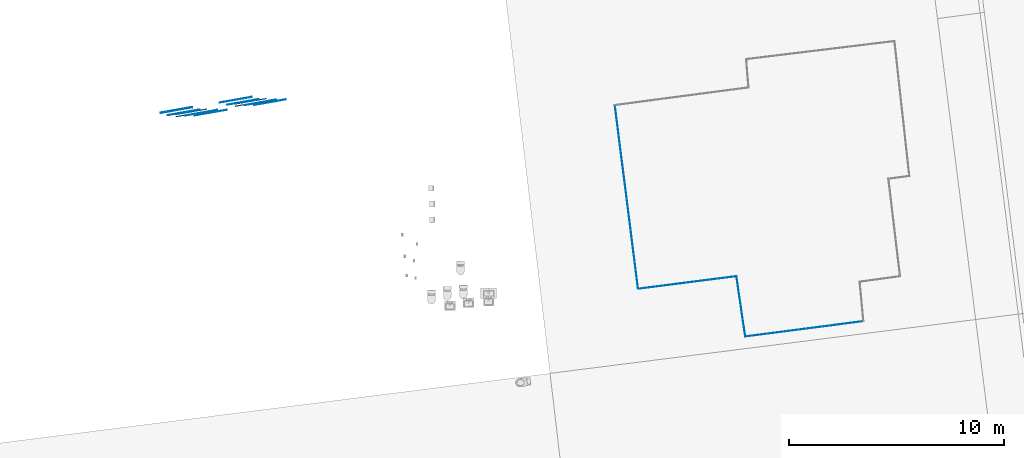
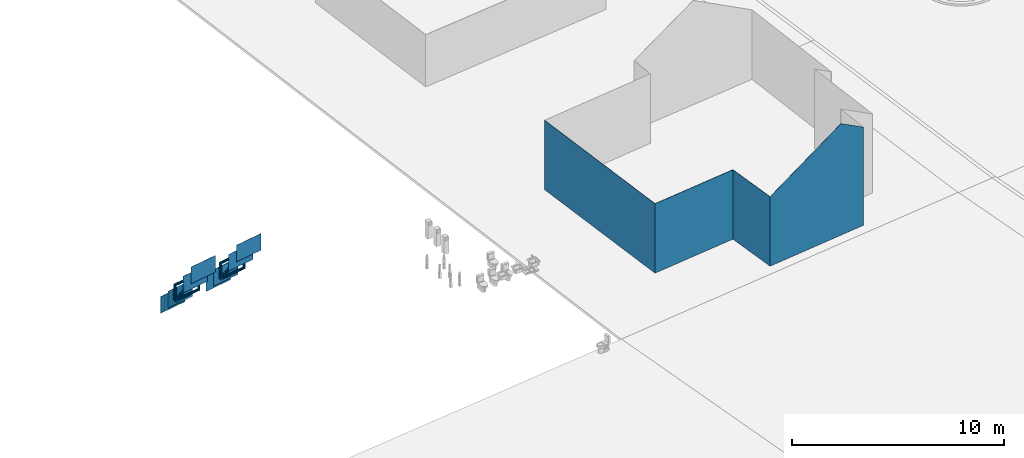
# One storey, part 21 of 75: 17 walls, 8 openings.
"""IFC2X3 building model written with IfcOpenShell, lengths in metres."""

from ifc_helpers import new_model, entity, si_unit, converted_unit, derived_unit, direction, frame, frame_2d, origin, origin_2d_with_axis, place, context, subcontext, project, spatial, polyline, rectangle, outline, extrude, clip, bounded_halfspace, material, layer, layer_set, layer_usage, type_object, element, save


model = new_model("IFC2X3")

# Units and contexts
model_context = context("Model", 3, precision=1e-05, world=origin(), true_north=direction((6.123031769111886e-17, 1.0)))
body_context = subcontext(model_context, "Body", "Model", "MODEL_VIEW")
ifc_project = project(units=[si_unit("LENGTHUNIT", "METRE"), si_unit("AREAUNIT", "SQUARE_METRE"), si_unit("VOLUMEUNIT", "CUBIC_METRE"), converted_unit("PLANEANGLEUNIT", "DEGREE", entity("IfcRatioMeasure", 0.017453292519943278), si_unit("PLANEANGLEUNIT", "RADIAN"), dimensions=[0, 0, 0, 0, 0, 0, 0]), si_unit("MASSUNIT", "GRAM", prefix="KILO"), derived_unit("MASSDENSITYUNIT", [(si_unit("MASSUNIT", "GRAM", prefix="KILO"), 1), (si_unit("LENGTHUNIT", "METRE"), -3)]), derived_unit("IONCONCENTRATIONUNIT", [(si_unit("MASSUNIT", "GRAM", prefix="KILO"), 1), (si_unit("LENGTHUNIT", "METRE"), -3)]), derived_unit("MOMENTOFINERTIAUNIT", [(si_unit("LENGTHUNIT", "METRE"), 4)]), si_unit("TIMEUNIT", "SECOND"), si_unit("FREQUENCYUNIT", "HERTZ"), si_unit("THERMODYNAMICTEMPERATUREUNIT", "DEGREE_CELSIUS"), derived_unit("THERMALTRANSMITTANCEUNIT", [(si_unit("MASSUNIT", "GRAM", prefix="KILO"), 1), (si_unit("THERMODYNAMICTEMPERATUREUNIT", "KELVIN"), -1), (si_unit("TIMEUNIT", "SECOND"), -3)]), derived_unit("THERMALCONDUCTANCEUNIT", [(si_unit("MASSUNIT", "GRAM", prefix="KILO"), 1), (si_unit("THERMODYNAMICTEMPERATUREUNIT", "KELVIN"), -1), (si_unit("TIMEUNIT", "SECOND"), -3), (si_unit("LENGTHUNIT", "METRE"), 1)]), derived_unit("VOLUMETRICFLOWRATEUNIT", [(si_unit("LENGTHUNIT", "METRE"), 3), (si_unit("TIMEUNIT", "SECOND"), -1)]), derived_unit("MASSFLOWRATEUNIT", [(si_unit("MASSUNIT", "GRAM", prefix="KILO"), 1), (si_unit("TIMEUNIT", "SECOND"), -1)]), derived_unit("ROTATIONALFREQUENCYUNIT", [(si_unit("TIMEUNIT", "SECOND"), -1)]), si_unit("ELECTRICCURRENTUNIT", "AMPERE"), si_unit("ELECTRICVOLTAGEUNIT", "VOLT"), si_unit("POWERUNIT", "WATT"), si_unit("FORCEUNIT", "NEWTON", prefix="KILO"), si_unit("ILLUMINANCEUNIT", "LUX"), si_unit("LUMINOUSFLUXUNIT", "LUMEN"), si_unit("LUMINOUSINTENSITYUNIT", "CANDELA"), derived_unit("USERDEFINED", [(si_unit("MASSUNIT", "GRAM", prefix="KILO"), -1), (si_unit("LENGTHUNIT", "METRE"), -2), (si_unit("TIMEUNIT", "SECOND"), 3), (si_unit("LUMINOUSFLUXUNIT", "LUMEN"), 1)]), derived_unit("USERDEFINED", [(si_unit("MASSUNIT", "GRAM", prefix="KILO"), 1), (si_unit("TIMEUNIT", "SECOND"), -3), (si_unit("LENGTHUNIT", "METRE"), 3), (si_unit("ELECTRICCURRENTUNIT", "AMPERE"), -2)]), derived_unit("SOUNDPOWERUNIT", [(si_unit("MASSUNIT", "GRAM", prefix="KILO"), 1), (si_unit("TIMEUNIT", "SECOND"), -3), (si_unit("LENGTHUNIT", "METRE"), 2)]), derived_unit("SOUNDPRESSUREUNIT", [(si_unit("MASSUNIT", "GRAM", prefix="KILO"), 1), (si_unit("LENGTHUNIT", "METRE"), -1), (si_unit("TIMEUNIT", "SECOND"), -2)]), derived_unit("LINEARVELOCITYUNIT", [(si_unit("LENGTHUNIT", "METRE"), 1), (si_unit("TIMEUNIT", "SECOND"), -1)]), si_unit("PRESSUREUNIT", "PASCAL"), derived_unit("USERDEFINED", [(si_unit("MASSUNIT", "GRAM", prefix="KILO"), 1), (si_unit("LENGTHUNIT", "METRE"), -2), (si_unit("TIMEUNIT", "SECOND"), -2)]), derived_unit("LINEARFORCEUNIT", [(si_unit("MASSUNIT", "GRAM", prefix="KILO"), 1), (si_unit("TIMEUNIT", "SECOND"), -2)]), derived_unit("PLANARFORCEUNIT", [(si_unit("MASSUNIT", "GRAM", prefix="KILO"), 1), (si_unit("LENGTHUNIT", "METRE"), -1), (si_unit("TIMEUNIT", "SECOND"), -2)]), derived_unit("SPECIFICHEATCAPACITYUNIT", [(si_unit("THERMODYNAMICTEMPERATUREUNIT", "KELVIN"), -1), (si_unit("LENGTHUNIT", "METRE"), 2), (si_unit("TIMEUNIT", "SECOND"), -2)]), derived_unit("HEATINGVALUEUNIT", [(si_unit("LENGTHUNIT", "METRE"), 2), (si_unit("TIMEUNIT", "SECOND"), -2)]), derived_unit("VAPORPERMEABILITYUNIT", [(si_unit("LENGTHUNIT", "METRE"), -1), (si_unit("TIMEUNIT", "SECOND"), 1)]), derived_unit("DYNAMICVISCOSITYUNIT", [(si_unit("MASSUNIT", "GRAM", prefix="KILO"), 1), (si_unit("TIMEUNIT", "SECOND"), -1), (si_unit("LENGTHUNIT", "METRE"), -1)]), derived_unit("THERMALEXPANSIONCOEFFICIENTUNIT", [(si_unit("THERMODYNAMICTEMPERATUREUNIT", "KELVIN"), -1)]), derived_unit("MODULUSOFELASTICITYUNIT", [(si_unit("MASSUNIT", "GRAM", prefix="KILO"), 1), (si_unit("LENGTHUNIT", "METRE"), -1), (si_unit("TIMEUNIT", "SECOND"), -2)]), derived_unit("ISOTHERMALMOISTURECAPACITYUNIT", [(si_unit("LENGTHUNIT", "METRE"), 3), (si_unit("MASSUNIT", "GRAM", prefix="KILO"), -1)]), derived_unit("MOISTUREDIFFUSIVITYUNIT", [(si_unit("TIMEUNIT", "SECOND"), -1), (si_unit("LENGTHUNIT", "METRE"), 2)])], contexts=[model_context])

# Site, building, storey
site_placement = place(None, origin())
site = spatial("IfcSite", under=ifc_project, at=site_placement, Name="Default", CompositionType="ELEMENT")
building_placement = place(site_placement, origin())
building = spatial("IfcBuilding", under=site, at=building_placement, Name="Projeto", CompositionType="ELEMENT")
storey_placement = place(building_placement, origin())
storey = spatial("IfcBuildingStorey", under=building, at=storey_placement, Name="Nível 1", CompositionType="ELEMENT", Elevation=0.0)

# Walls
ifc_material_1 = material(Name="Metal")
ifc_layer_1 = layer(ifc_material_1, 0.01)
ifc_layer_set_1 = layer_set([ifc_layer_1], Name="Parede básica:JA_Aluminio")
ifc_layer_usage_1 = layer_usage(ifc_layer_set_1, "AXIS2", "NEGATIVE", 0.005)
wall_type_1 = type_object("IfcWallType", Name="Parede básica:JA_Aluminio", PredefinedType="STANDARD", material=ifc_layer_set_1)
wall_1_placement = place(storey_placement, frame((-43.29096074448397, 28.0601395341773, -2.6), z_axis=(0.0, 0.0, 1.0), x_axis=(-0.9917403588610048, -0.1282616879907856, 0.0)))
element("IfcWallStandardCase", 1, at=wall_1_placement, inside=storey, type_object=wall_type_1, material=ifc_layer_usage_1, Name="Parede básica:JA_Aluminio", ObjectType="Parede básica:JA_Aluminio", context=body_context, shape_type="Clipping", body=[
    clip(clip(extrude(outline(polyline([(5.543344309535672, -0.005000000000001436), (5.543174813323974, 0.004999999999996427), (0.0003471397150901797, 0.004999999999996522), (0.0, -0.0050000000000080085), (5.533342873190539, -0.005000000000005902), (5.543344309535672, -0.005000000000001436)])), origin(), (0.0, 0.0, 1.0), 6.429467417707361), bounded_halfspace(frame((1.3347788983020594, -0.005000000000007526, 6.42946741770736), z_axis=(0.49992819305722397, 0.008473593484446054, 0.8660254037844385), x_axis=(-0.01694718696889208, 0.9998563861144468, 0.0)), False, frame((1.3347788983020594, -0.005000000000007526, 6.42946741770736)), polyline([(0.0, 0.0), (4.198563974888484, 0.0), (4.208565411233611, 0.0), (4.208395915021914, 0.009999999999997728), (1.069765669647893e-05, 0.01000000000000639), (0.0, 0.0)]))), bounded_halfspace(frame((0.0, -0.005000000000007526, 5.6589728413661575), z_axis=(-0.49990891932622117, 0.009543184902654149, 0.8660254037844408), x_axis=(-0.01908636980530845, -0.9998178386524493, 0.0)), False, frame((0.0, -0.005000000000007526, 5.6589728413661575)), polyline([(0.0, 0.0), (1.3347788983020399, 0.0), (1.3347895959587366, 0.01000000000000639), (0.00034713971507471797, 0.01000000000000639), (0.0, 0.0)]))),
])
wall_2_placement = place(storey_placement, frame((-48.78418862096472, 27.35465708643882, -2.6), z_axis=(0.0, 0.0, 1.0), x_axis=(-0.1450504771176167, 0.9894242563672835, 0.0)))
element("IfcWallStandardCase", 2, at=wall_2_placement, inside=storey, type_object=wall_type_1, material=ifc_layer_usage_1, Name="Parede básica:JA_Aluminio", ObjectType="Parede básica:JA_Aluminio", context=body_context, shape_type="Clipping", body=[
    clip(clip(extrude(outline(polyline([(2.8326081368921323, -0.005000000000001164), (2.832797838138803, 0.004999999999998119), (2.8227960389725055, 0.00500000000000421), (0.00016949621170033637, 0.005000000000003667), (0.0, -0.004999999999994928), (2.8326081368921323, -0.005000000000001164)])), origin(), (0.0, 0.0, 1.0), 4.005773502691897), bounded_halfspace(frame((2.8326081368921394, -0.004999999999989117, 4.005773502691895), z_axis=(-0.49991005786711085, 0.00948335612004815, 0.86602540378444), x_axis=(-0.018966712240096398, -0.9998201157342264, 0.0)), False, frame((2.8326081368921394, -0.004999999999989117, 4.005773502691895)), polyline([(0.0, 0.0), (0.00018970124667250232, 0.009999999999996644), (-0.00981209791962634, 0.00999999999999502), (0.0, 0.0)]))), bounded_halfspace(frame((0.0, -0.004999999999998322, 4.005773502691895), z_axis=(0.0, 0.5000000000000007, 0.8660254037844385), x_axis=(-1.0, 0.0, 0.0)), False, frame((0.0, -0.004999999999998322, 4.005773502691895)), polyline([(0.0, 0.0), (2.8326081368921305, 0.0), (2.822796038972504, 0.010000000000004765), (0.00016949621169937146, 0.009999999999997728), (0.0, 0.0)]))),
])
wall_3_placement = place(storey_placement, frame((-49.19921494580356, 30.15183469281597, -2.6), z_axis=(0.0, 0.0, 1.0), x_axis=(-0.9919974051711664, -0.12625825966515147, 0.0)))
element("IfcWallStandardCase", 3, at=wall_3_placement, inside=storey, type_object=wall_type_1, material=ifc_layer_usage_1, Name="Parede básica:JA_Aluminio", ObjectType="Parede básica:JA_Aluminio", context=body_context, shape_type="Clipping", body=[
    clip(clip(extrude(outline(polyline([(4.615245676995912, -0.004999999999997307), (4.615256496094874, 0.005000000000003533), (0.0, 0.005000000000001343), (0.00018970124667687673, -0.004999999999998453), (4.605245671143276, -0.004999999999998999), (4.615245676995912, -0.004999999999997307)])), origin(), (0.0, 0.0, 1.0), 4.005773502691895), bounded_halfspace(frame((4.6052456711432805, -0.005000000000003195, 4.005773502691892), z_axis=(0.49999970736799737, -0.0005409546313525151, 0.866025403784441), x_axis=(0.0010819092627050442, 0.9999994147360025, 0.0)), False, frame((4.6052456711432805, -0.005000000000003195, 4.005773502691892)), polyline([(0.0, 0.0), (0.010000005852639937, 0.0), (0.010010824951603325, 0.010000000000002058), (0.0, 0.0)]))), bounded_halfspace(frame((0.00018970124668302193, -0.004999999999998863, 4.005773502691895), z_axis=(0.0, 0.4999999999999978, 0.86602540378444), x_axis=(-1.0, 0.0, 0.0)), False, frame((0.00018970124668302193, -0.004999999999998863, 4.005773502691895)), polyline([(0.0, 0.0), (4.605055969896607, 0.0), (4.61506679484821, 0.010000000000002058), (-0.00018970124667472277, 0.009999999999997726), (0.0, 0.0)]))),
])
wall_4_placement = place(storey_placement, frame((-53.77319730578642, 29.574707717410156, -2.6), z_axis=(0.0, 0.0, 1.0), x_axis=(-0.12518493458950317, 0.9921334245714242, 0.0)))
element("IfcWallStandardCase", 4, at=wall_4_placement, inside=storey, type_object=wall_type_1, material=ifc_layer_usage_1, Name="Parede básica:JA_Aluminio", ObjectType="Parede básica:JA_Aluminio", context=body_context, shape_type="Clipping", body=[
    clip(clip(extrude(outline(polyline([(8.6123508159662, -0.005000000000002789), (8.612294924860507, 0.004999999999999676), (0.0, 0.004999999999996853), (1.081909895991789e-05, -0.004999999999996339), (8.602350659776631, -0.0050000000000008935), (8.6123508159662, -0.005000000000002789)])), origin(), (0.0, 0.0, 1.0), 4.005773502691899), bounded_halfspace(frame((1.0819098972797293e-05, -0.005000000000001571, 4.005773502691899), z_axis=(0.0, 0.49999999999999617, 0.866025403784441), x_axis=(-1.0, 0.0, 0.0)), False, frame((1.0819098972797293e-05, -0.005000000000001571, 4.005773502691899)), polyline([(0.0, 0.0), (8.602339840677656, 0.0), (8.612284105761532, 0.009999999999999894), (-1.0819098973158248e-05, 0.010000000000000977), (0.0, 0.0)]))), bounded_halfspace(frame((8.602350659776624, -0.004999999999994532, 4.005773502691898), z_axis=(0.49999219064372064, 0.002794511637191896, 0.8660254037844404), x_axis=(-0.005589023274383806, 0.9999843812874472, 0.0)), False, frame((8.602350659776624, -0.004999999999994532, 4.005773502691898)), polyline([(0.0, 0.0), (0.01000015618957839, 0.0), (0.00994426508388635, 0.009999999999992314), (0.0, 0.0)]))),
])
ifc_material_2 = material(Name=".ARQ.PIS - CONTRAPISO.ARMADO")
ifc_layer_2 = layer(ifc_material_2, 0.01)
ifc_layer_set_2 = layer_set([ifc_layer_2], Name="Parede básica:15cm 2")
ifc_layer_usage_2 = layer_usage(ifc_layer_set_2, "AXIS2", "NEGATIVE", 0.005000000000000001)
wall_type_2 = type_object("IfcWallType", Name="Parede básica:15cm 2", PredefinedType="STANDARD", material=ifc_layer_set_2)
wall_5_placement = place(storey_placement, frame((-71.4154008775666, 38.3934594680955, -1.8532580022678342), z_axis=(0.0, 0.0, 1.0), x_axis=(-0.9848077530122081, -0.1736481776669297, 0.0)))
element("IfcWallStandardCase", 5, at=wall_5_placement, inside=storey, type_object=wall_type_2, material=ifc_layer_usage_2, Name="Parede básica:15cm 2", ObjectType="Parede básica:15cm 2", context=body_context, shape_type="SweptSolid", body=[
    extrude(rectangle(XDim=0.00999999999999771, YDim=1.5000000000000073, at=frame_2d((-2.131975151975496e-15, 3.885780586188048e-16), x_axis=(1.0, 0.0))), frame((0.7499999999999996, 0.0, 0.0), z_axis=(0.0, 0.0, 1.0), x_axis=(0.0, 1.0, 0.0)), (0.0, 0.0, 1.0), 0.9640099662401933),
])
wall_6_placement = place(storey_placement, frame((-70.60191288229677, 38.3744310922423, -1.2605113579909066), z_axis=(0.0, 0.0, 1.0), x_axis=(-0.9848077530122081, -0.1736481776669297, 0.0)))
element("IfcWallStandardCase", 6, at=wall_6_placement, inside=storey, type_object=wall_type_2, material=ifc_layer_usage_2, Name="Parede básica:15cm 2", ObjectType="Parede básica:15cm 2", context=body_context, shape_type="SweptSolid", body=[
    extrude(rectangle(XDim=0.00999999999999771, YDim=1.5000000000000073, at=frame_2d((3.6290415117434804e-15, 8.215650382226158e-15), x_axis=(1.0, 0.0))), frame((0.7500000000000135, 0.0, 0.0), z_axis=(0.0, 0.0, 1.0), x_axis=(0.0, 1.0, 0.0)), (0.0, 0.0, 1.0), 0.9640099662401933),
])
wall_7_placement = place(storey_placement, frame((-70.16026393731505, 38.381225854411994, -0.882373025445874), z_axis=(0.0, 0.0, 1.0), x_axis=(-0.9848077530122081, -0.1736481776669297, 0.0)))
element("IfcWallStandardCase", 7, at=wall_7_placement, inside=storey, type_object=wall_type_2, material=ifc_layer_usage_2, Name="Parede básica:15cm 2", ObjectType="Parede básica:15cm 2", context=body_context, shape_type="SweptSolid", body=[
    extrude(rectangle(XDim=0.00999999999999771, YDim=1.5000000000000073, at=frame_2d((-2.131975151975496e-15, 3.885780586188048e-16), x_axis=(1.0, 0.0))), frame((0.750000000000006, 0.0, 0.0), z_axis=(0.0, 0.0, 1.0), x_axis=(0.0, 1.0, 0.0)), (0.0, 0.0, 1.0), 0.9640099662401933),
])
wall_8_placement = place(storey_placement, frame((-71.7583230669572, 38.495461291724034, -2.1), z_axis=(0.0, 0.0, 1.0), x_axis=(-0.9848077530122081, -0.1736481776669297, 0.0)))
element("IfcWallStandardCase", 8, at=wall_8_placement, inside=storey, type_object=wall_type_2, material=ifc_layer_usage_2, Name="Parede básica:15cm 2", ObjectType="Parede básica:15cm 2", context=body_context, shape_type="SweptSolid", body=[
    extrude(rectangle(XDim=0.009999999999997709, YDim=1.5000000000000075, at=frame_2d((2.131975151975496e-15, -3.885780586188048e-16), x_axis=(1.0, 0.0))), frame((0.7500000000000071, 0.0, 0.0), z_axis=(0.0, 0.0, 1.0), x_axis=(0.0, 1.0, 0.0)), (0.0, 0.0, 1.0), 0.9640099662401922),
])
wall_9_placement = place(storey_placement, frame((-74.54214145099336, 38.01475326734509, -2.1), z_axis=(0.0, 0.0, 1.0), x_axis=(-0.9848077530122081, -0.1736481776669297, 0.0)))
element("IfcWall", 9, at=wall_9_placement, inside=storey, type_object=wall_type_2, Name="Parede básica:15cm 2", ObjectType="Parede básica:15cm 2", context=body_context, shape_type="SweptSolid", body=[
    extrude(rectangle(XDim=0.009999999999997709, YDim=0.049999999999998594, at=origin_2d_with_axis()), frame((1.3249999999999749, 0.0, 0.0), z_axis=(0.0, 0.0, 1.0), x_axis=(0.0, 1.0, 0.0)), (0.0, 0.0, 1.0), 0.9640099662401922),
    extrude(rectangle(XDim=0.009999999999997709, YDim=0.05000000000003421, at=origin_2d_with_axis()), frame((1.4249999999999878, 0.0, 0.0), z_axis=(0.0, 0.0, 1.0), x_axis=(0.0, 1.0, 0.0)), (0.0, 0.0, 1.0), 0.9640099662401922),
    extrude(rectangle(XDim=0.009999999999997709, YDim=0.04999999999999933, at=frame_2d((2.1328425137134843e-15, -3.7470027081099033e-16), x_axis=(1.0, 0.0))), frame((0.02499999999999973, 0.0, 0.0), z_axis=(0.0, 0.0, 1.0), x_axis=(0.0, 1.0, 0.0)), (0.0, 0.0, 1.0), 0.9640099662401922),
    extrude(rectangle(XDim=0.009999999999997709, YDim=0.049999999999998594, at=origin_2d_with_axis()), frame((0.1249999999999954, 0.0, 0.0), z_axis=(0.0, 0.0, 1.0), x_axis=(0.0, 1.0, 0.0)), (0.0, 0.0, 1.0), 0.9640099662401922),
    extrude(rectangle(XDim=0.009999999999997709, YDim=0.04999999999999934, at=frame_2d((-2.1328425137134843e-15, 3.7470027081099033e-16), x_axis=(1.0, 0.0))), frame((0.22499999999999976, 0.0, 0.0), z_axis=(0.0, 0.0, 1.0), x_axis=(0.0, 1.0, 0.0)), (0.0, 0.0, 1.0), 0.9640099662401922),
    extrude(rectangle(XDim=0.009999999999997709, YDim=0.04999999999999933, at=frame_2d((2.1328425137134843e-15, -3.7470027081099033e-16), x_axis=(1.0, 0.0))), frame((0.32499999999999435, 0.0, 0.0), z_axis=(0.0, 0.0, 1.0), x_axis=(0.0, 1.0, 0.0)), (0.0, 0.0, 1.0), 0.9640099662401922),
    extrude(rectangle(XDim=0.009999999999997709, YDim=0.049999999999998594, at=origin_2d_with_axis()), frame((0.42499999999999, 0.0, 0.0), z_axis=(0.0, 0.0, 1.0), x_axis=(0.0, 1.0, 0.0)), (0.0, 0.0, 1.0), 0.9640099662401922),
    extrude(rectangle(XDim=0.009999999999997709, YDim=0.04999999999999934, at=frame_2d((-2.1328425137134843e-15, 3.7470027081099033e-16), x_axis=(1.0, 0.0))), frame((0.5249999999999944, 0.0, 0.0), z_axis=(0.0, 0.0, 1.0), x_axis=(0.0, 1.0, 0.0)), (0.0, 0.0, 1.0), 0.9640099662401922),
    extrude(rectangle(XDim=0.009999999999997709, YDim=0.04999999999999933, at=frame_2d((2.1328425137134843e-15, -3.7470027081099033e-16), x_axis=(1.0, 0.0))), frame((0.6249999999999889, 0.0, 0.0), z_axis=(0.0, 0.0, 1.0), x_axis=(0.0, 1.0, 0.0)), (0.0, 0.0, 1.0), 0.9640099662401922),
    extrude(rectangle(XDim=0.009999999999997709, YDim=0.049999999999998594, at=origin_2d_with_axis()), frame((0.7249999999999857, 0.0, 0.0), z_axis=(0.0, 0.0, 1.0), x_axis=(0.0, 1.0, 0.0)), (0.0, 0.0, 1.0), 0.9640099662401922),
    extrude(rectangle(XDim=0.009999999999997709, YDim=0.04999999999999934, at=frame_2d((-2.1328425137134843e-15, 3.7470027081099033e-16), x_axis=(1.0, 0.0))), frame((0.8249999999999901, 0.0, 0.0), z_axis=(0.0, 0.0, 1.0), x_axis=(0.0, 1.0, 0.0)), (0.0, 0.0, 1.0), 0.9640099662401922),
    extrude(rectangle(XDim=0.009999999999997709, YDim=0.04999999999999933, at=frame_2d((2.1328425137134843e-15, -3.7470027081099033e-16), x_axis=(1.0, 0.0))), frame((0.9249999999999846, 0.0, 0.0), z_axis=(0.0, 0.0, 1.0), x_axis=(0.0, 1.0, 0.0)), (0.0, 0.0, 1.0), 0.9640099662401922),
    extrude(rectangle(XDim=0.009999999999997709, YDim=0.049999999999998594, at=origin_2d_with_axis()), frame((1.0249999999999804, 0.0, 0.0), z_axis=(0.0, 0.0, 1.0), x_axis=(0.0, 1.0, 0.0)), (0.0, 0.0, 1.0), 0.9640099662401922),
    extrude(rectangle(XDim=0.009999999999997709, YDim=0.04999999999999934, at=frame_2d((-2.1328425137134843e-15, 3.7470027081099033e-16), x_axis=(1.0, 0.0))), frame((1.124999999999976, 0.0, 0.0), z_axis=(0.0, 0.0, 1.0), x_axis=(0.0, 1.0, 0.0)), (0.0, 0.0, 1.0), 0.9640099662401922),
    extrude(rectangle(XDim=0.009999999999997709, YDim=0.04999999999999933, at=frame_2d((2.1328425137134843e-15, -3.7470027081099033e-16), x_axis=(1.0, 0.0))), frame((1.2249999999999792, 0.0, 0.0), z_axis=(0.0, 0.0, 1.0), x_axis=(0.0, 1.0, 0.0)), (0.0, 0.0, 1.0), 0.9640099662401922),
])
wall_10_placement = place(storey_placement, frame((-74.17286258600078, 37.90724457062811, -1.8532580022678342), z_axis=(0.0, 0.0, 1.0), x_axis=(-0.9848077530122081, -0.1736481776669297, 0.0)))
element("IfcWallStandardCase", 10, at=wall_10_placement, inside=storey, type_object=wall_type_2, material=ifc_layer_usage_2, Name="Parede básica:15cm 2", ObjectType="Parede básica:15cm 2", context=body_context, shape_type="SweptSolid", body=[
    extrude(rectangle(XDim=0.009999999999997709, YDim=1.5000000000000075, at=frame_2d((2.131975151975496e-15, -3.885780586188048e-16), x_axis=(1.0, 0.0))), frame((0.7500000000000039, 0.0, 0.0), z_axis=(0.0, 0.0, 1.0), x_axis=(0.0, 1.0, 0.0)), (0.0, 0.0, 1.0), 0.9640099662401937),
])
wall_11_placement = place(storey_placement, frame((-73.35937459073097, 37.888216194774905, -1.260511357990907), z_axis=(0.0, 0.0, 1.0), x_axis=(-0.9848077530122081, -0.1736481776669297, 0.0)))
element("IfcWallStandardCase", 11, at=wall_11_placement, inside=storey, type_object=wall_type_2, material=ifc_layer_usage_2, Name="Parede básica:15cm 2", ObjectType="Parede básica:15cm 2", context=body_context, shape_type="SweptSolid", body=[
    extrude(rectangle(XDim=0.00999999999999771, YDim=1.5000000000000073, at=frame_2d((-2.131975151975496e-15, 3.885780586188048e-16), x_axis=(1.0, 0.0))), frame((0.7500000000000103, 0.0, 0.0), z_axis=(0.0, 0.0, 1.0), x_axis=(0.0, 1.0, 0.0)), (0.0, 0.0, 1.0), 0.9640099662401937),
])
wall_12_placement = place(storey_placement, frame((-72.91772564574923, 37.8950109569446, -0.8823730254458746), z_axis=(0.0, 0.0, 1.0), x_axis=(-0.9848077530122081, -0.1736481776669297, 0.0)))
element("IfcWallStandardCase", 12, at=wall_12_placement, inside=storey, type_object=wall_type_2, material=ifc_layer_usage_2, Name="Parede básica:15cm 2", ObjectType="Parede básica:15cm 2", context=body_context, shape_type="SweptSolid", body=[
    extrude(rectangle(XDim=0.00999999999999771, YDim=1.5000000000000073, at=frame_2d((-2.131975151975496e-15, 3.885780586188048e-16), x_axis=(1.0, 0.0))), frame((0.7500000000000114, 0.0, 0.0), z_axis=(0.0, 0.0, 1.0), x_axis=(0.0, 1.0, 0.0)), (0.0, 0.0, 1.0), 0.9640099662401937),
])
wall_13_placement = place(storey_placement, frame((-74.51578477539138, 38.009246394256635, -2.1), z_axis=(0.0, 0.0, 1.0), x_axis=(-0.9848077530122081, -0.1736481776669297, 0.0)))
element("IfcWallStandardCase", 13, at=wall_13_placement, inside=storey, type_object=wall_type_2, material=ifc_layer_usage_2, Name="Parede básica:15cm 2", ObjectType="Parede básica:15cm 2", context=body_context, shape_type="SweptSolid", body=[
    extrude(rectangle(XDim=0.009999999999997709, YDim=1.5000000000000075, at=frame_2d((2.131975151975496e-15, -3.885780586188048e-16), x_axis=(1.0, 0.0))), frame((0.7500000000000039, 0.0, 0.0), z_axis=(0.0, 0.0, 1.0), x_axis=(0.0, 1.0, 0.0)), (0.0, 0.0, 1.0), 0.9640099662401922),
])

# Wall, openings
ifc_layer_3 = layer(ifc_material_2, 0.05)
ifc_layer_set_3 = layer_set([ifc_layer_3], Name="Parede básica:15cm 4")
ifc_layer_usage_3 = layer_usage(ifc_layer_set_3, "AXIS2", "NEGATIVE", 0.024999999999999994)
wall_type_3 = type_object("IfcWallType", Name="Parede básica:15cm 4", PredefinedType="STANDARD", material=ifc_layer_set_3)
wall_14_placement = place(storey_placement, frame((-71.0675176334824, 38.42433787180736, -1.5807881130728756), z_axis=(0.0, 0.0, 1.0), x_axis=(-0.9848077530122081, -0.1736481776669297, 0.0)))
wall_14 = element("IfcWallStandardCase", 14, at=wall_14_placement, inside=storey, type_object=wall_type_3, material=ifc_layer_usage_3, Name="Parede básica:15cm 4", ObjectType="Parede básica:15cm 4", context=body_context, shape_type="SweptSolid", body=[
    extrude(rectangle(XDim=0.04999999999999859, YDim=1.5000000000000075, at=frame_2d((2.8848451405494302e-15, 3.941291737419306e-15), x_axis=(1.0, 0.0))), frame((0.7500000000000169, 0.0, 0.0), z_axis=(0.0, 0.0, 1.0), x_axis=(0.0, 1.0, 0.0)), (0.0, 0.0, 1.0), 0.9640099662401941),
])
opening_1_placement = place(storey_placement, frame((-71.0675176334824, 38.42433787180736, -1.5807881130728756), z_axis=(0.0, 0.0, 1.0), x_axis=(-0.9848077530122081, -0.1736481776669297, 0.0)))
element("IfcOpeningElement", 15, at=opening_1_placement, cuts=wall_14, Name="Parede básica:15cm 4:1", ObjectType="Opening", context=body_context, shape_type="SweptSolid", body=[
    extrude(outline(polyline([(-0.9133613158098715, -0.2367537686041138), (0.6758495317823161, -0.23675376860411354), (0.23751178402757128, 0.47350753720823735), (-0.9133613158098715, -0.2367537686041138)])), frame((0.9992007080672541, 0.02499999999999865, 0.6357991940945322), z_axis=(0.0, -1.0, 0.0), x_axis=(0.8509870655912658, 0.0, -0.5251866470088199)), (0.0, 0.0, 1.0), 0.04999999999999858),
])
opening_2_placement = place(storey_placement, frame((-71.0675176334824, 38.42433787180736, -1.5807881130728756), z_axis=(0.0, 0.0, 1.0), x_axis=(-0.9848077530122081, -0.1736481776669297, 0.0)))
element("IfcOpeningElement", 16, at=opening_2_placement, cuts=wall_14, Name="Parede básica:15cm 4:2", ObjectType="Opening", context=body_context, shape_type="SweptSolid", body=[
    extrude(outline(polyline([(-0.45079929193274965, -0.2782107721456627), (0.9015985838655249, -0.27821077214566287), (-0.4507992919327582, 0.5564215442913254), (-0.45079929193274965, -0.2782107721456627)])), frame((0.5007992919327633, 0.02500000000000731, 0.3282107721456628), z_axis=(0.0, -1.0, 0.0), x_axis=(1.0, 0.0, 0.0)), (0.0, 0.0, 1.0), 0.04999999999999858),
])

wall_15_placement = place(storey_placement, frame((-71.0501528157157, 38.32585709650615, -1.5807881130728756), z_axis=(0.0, 0.0, 1.0), x_axis=(-0.9848077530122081, -0.1736481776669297, 0.0)))
wall_15 = element("IfcWallStandardCase", 17, at=wall_15_placement, inside=storey, type_object=wall_type_3, material=ifc_layer_usage_3, Name="Parede básica:15cm 4", ObjectType="Parede básica:15cm 4", context=body_context, shape_type="SweptSolid", body=[
    extrude(rectangle(XDim=0.04999999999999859, YDim=1.5000000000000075, at=frame_2d((2.8848451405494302e-15, 3.941291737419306e-15), x_axis=(1.0, 0.0))), frame((0.7500000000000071, 0.0, 0.0), z_axis=(0.0, 0.0, 1.0), x_axis=(0.0, 1.0, 0.0)), (0.0, 0.0, 1.0), 0.9640099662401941),
])
opening_3_placement = place(storey_placement, frame((-71.0501528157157, 38.32585709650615, -1.5807881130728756), z_axis=(0.0, 0.0, 1.0), x_axis=(-0.9848077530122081, -0.1736481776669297, 0.0)))
element("IfcOpeningElement", 18, at=opening_3_placement, cuts=wall_15, Name="Parede básica:15cm 4:1", ObjectType="Opening", context=body_context, shape_type="SweptSolid", body=[
    extrude(outline(polyline([(-0.9133613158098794, -0.23675376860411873), (0.675849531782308, -0.23675376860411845), (0.23751178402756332, 0.47350753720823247), (-0.9133613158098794, -0.23675376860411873)])), frame((0.999200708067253, 0.02499999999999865, 0.6357991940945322), z_axis=(0.0, -1.0, 0.0), x_axis=(0.8509870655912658, 0.0, -0.5251866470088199)), (0.0, 0.0, 1.0), 0.04999999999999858),
])
opening_4_placement = place(storey_placement, frame((-71.0501528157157, 38.32585709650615, -1.5807881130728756), z_axis=(0.0, 0.0, 1.0), x_axis=(-0.9848077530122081, -0.1736481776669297, 0.0)))
element("IfcOpeningElement", 19, at=opening_4_placement, cuts=wall_15, Name="Parede básica:15cm 4:2", ObjectType="Opening", context=body_context, shape_type="SweptSolid", body=[
    extrude(outline(polyline([(-0.4507992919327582, -0.2782107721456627), (0.9015985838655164, -0.27821077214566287), (-0.4507992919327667, 0.5564215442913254), (-0.4507992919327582, -0.2782107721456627)])), frame((0.5007992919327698, 0.02499999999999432, 0.3282107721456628), z_axis=(0.0, -1.0, 0.0), x_axis=(1.0, 0.0, 0.0)), (0.0, 0.0, 1.0), 0.04999999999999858),
])

wall_16_placement = place(storey_placement, frame((-73.82497934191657, 37.93812297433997, -1.5807881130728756), z_axis=(0.0, 0.0, 1.0), x_axis=(-0.9848077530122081, -0.1736481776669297, 0.0)))
wall_16 = element("IfcWallStandardCase", 20, at=wall_16_placement, inside=storey, type_object=wall_type_3, material=ifc_layer_usage_3, Name="Parede básica:15cm 4", ObjectType="Parede básica:15cm 4", context=body_context, shape_type="SweptSolid", body=[
    extrude(rectangle(XDim=0.04999999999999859, YDim=1.5000000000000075, at=frame_2d((-1.3791051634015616e-15, 4.6074255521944e-15), x_axis=(1.0, 0.0))), frame((0.7500000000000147, 0.0, 0.0), z_axis=(0.0, 0.0, 1.0), x_axis=(0.0, 1.0, 0.0)), (0.0, 0.0, 1.0), 0.9640099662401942),
])
opening_5_placement = place(storey_placement, frame((-73.82497934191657, 37.93812297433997, -1.5807881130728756), z_axis=(0.0, 0.0, 1.0), x_axis=(-0.9848077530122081, -0.1736481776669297, 0.0)))
element("IfcOpeningElement", 21, at=opening_5_placement, cuts=wall_16, Name="Parede básica:15cm 4:1", ObjectType="Opening", context=body_context, shape_type="SweptSolid", body=[
    extrude(outline(polyline([(-0.9133613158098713, -0.23675376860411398), (0.6758495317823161, -0.23675376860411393), (0.2375117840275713, 0.47350753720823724), (-0.9133613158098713, -0.23675376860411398)])), frame((0.9992007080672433, 0.02500000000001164, 0.6357991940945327), z_axis=(0.0, -1.0, 0.0), x_axis=(0.8509870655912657, 0.0, -0.5251866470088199)), (0.0, 0.0, 1.0), 0.049999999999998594),
])
opening_6_placement = place(storey_placement, frame((-73.82497934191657, 37.93812297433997, -1.5807881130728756), z_axis=(0.0, 0.0, 1.0), x_axis=(-0.9848077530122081, -0.1736481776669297, 0.0)))
element("IfcOpeningElement", 22, at=opening_6_placement, cuts=wall_16, Name="Parede básica:15cm 4:2", ObjectType="Opening", context=body_context, shape_type="SweptSolid", body=[
    extrude(outline(polyline([(-0.4507992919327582, -0.2782107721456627), (0.9015985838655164, -0.27821077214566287), (-0.4507992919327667, 0.5564215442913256), (-0.4507992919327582, -0.2782107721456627)])), frame((0.5007992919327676, 0.02499999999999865, 0.3282107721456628), z_axis=(0.0, -1.0, 0.0), x_axis=(1.0, 0.0, 0.0)), (0.0, 0.0, 1.0), 0.04999999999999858),
])

wall_17_placement = place(storey_placement, frame((-73.8076145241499, 37.83964219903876, -1.5807881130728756), z_axis=(0.0, 0.0, 1.0), x_axis=(-0.9848077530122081, -0.1736481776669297, 0.0)))
wall_17 = element("IfcWallStandardCase", 23, at=wall_17_placement, inside=storey, type_object=wall_type_3, material=ifc_layer_usage_3, Name="Parede básica:15cm 4", ObjectType="Parede básica:15cm 4", context=body_context, shape_type="SweptSolid", body=[
    extrude(rectangle(XDim=0.04999999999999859, YDim=1.5000000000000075, at=frame_2d((2.8848451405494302e-15, 3.941291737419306e-15), x_axis=(1.0, 0.0))), frame((0.7500000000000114, 0.0, 0.0), z_axis=(0.0, 0.0, 1.0), x_axis=(0.0, 1.0, 0.0)), (0.0, 0.0, 1.0), 0.9640099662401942),
])
opening_7_placement = place(storey_placement, frame((-73.8076145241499, 37.83964219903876, -1.5807881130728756), z_axis=(0.0, 0.0, 1.0), x_axis=(-0.9848077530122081, -0.1736481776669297, 0.0)))
element("IfcOpeningElement", 24, at=opening_7_placement, cuts=wall_17, Name="Parede básica:15cm 4:1", ObjectType="Opening", context=body_context, shape_type="SweptSolid", body=[
    extrude(outline(polyline([(-0.9133613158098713, -0.23675376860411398), (0.6758495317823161, -0.23675376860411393), (0.2375117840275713, 0.47350753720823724), (-0.9133613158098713, -0.23675376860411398)])), frame((0.9992007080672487, 0.02499999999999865, 0.6357991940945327), z_axis=(0.0, -1.0, 0.0), x_axis=(0.8509870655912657, 0.0, -0.5251866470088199)), (0.0, 0.0, 1.0), 0.049999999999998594),
])
opening_8_placement = place(storey_placement, frame((-73.8076145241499, 37.83964219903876, -1.5807881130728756), z_axis=(0.0, 0.0, 1.0), x_axis=(-0.9848077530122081, -0.1736481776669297, 0.0)))
element("IfcOpeningElement", 25, at=opening_8_placement, cuts=wall_17, Name="Parede básica:15cm 4:2", ObjectType="Opening", context=body_context, shape_type="SweptSolid", body=[
    extrude(outline(polyline([(-0.45079929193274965, -0.2782107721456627), (0.9015985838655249, -0.27821077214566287), (-0.4507992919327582, 0.5564215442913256), (-0.45079929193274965, -0.2782107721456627)])), frame((0.5007992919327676, 0.025000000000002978, 0.3282107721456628), z_axis=(0.0, -1.0, 0.0), x_axis=(1.0, 0.0, 0.0)), (0.0, 0.0, 1.0), 0.04999999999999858),
])

save(model, "model.ifc")
